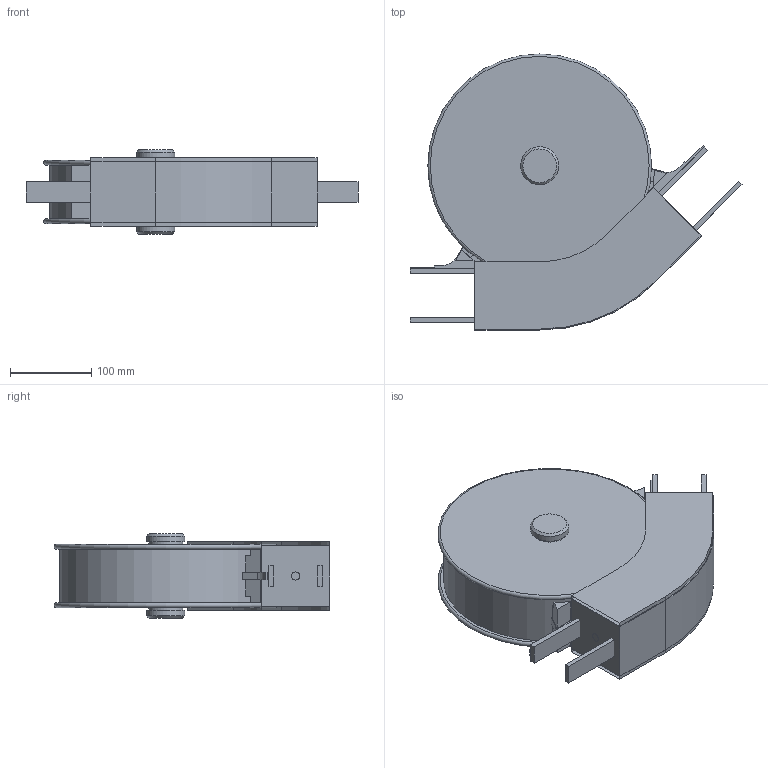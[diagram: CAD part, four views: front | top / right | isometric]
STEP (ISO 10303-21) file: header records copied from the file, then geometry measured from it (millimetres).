
FILE_DESCRIPTION(/* description */ ('Bogenrad 45°'),/* implementation_level */ '2;1');
FILE_NAME(/* name */ 'T:\vdz0\Step Daten Website\modulflex FM-System\Bogenräder\FMBH 45R160 A_43829.stp',/* time_stamp */ '2024-09-03T10:16:02+02:00',/* author */ ('lzb0'),/* organization */ ('modular automation GmbH'),/* preprocessor_version */ 'ST-DEVELOPER v18.1',/* originating_system */ 'Autodesk Inventor 2021',/* authorisation */ '');
FILE_SCHEMA (('AUTOMOTIVE_DESIGN { 1 0 10303 214 3 1 1 }'));
Length unit declared in the file: millimetre
Products named in the file (1): FMBH 45R160 A
Bounding box: 409.61 x 340.5 x 104 mm (x, y, z)
Volume: 6273486.9 mm3; surface area: 459113.2 mm2
Topology: 8 solids, 12 shells, 123 faces, 289 edges, 192 vertices
Faces by surface type: plane 104, cylinder 15, cone 2, torus 2
Full cylindrical faces by diameter (mm): 10 x2, 42 x2, 47 x2, 262 x1
Entity records: 3581 total; most frequent: CARTESIAN_POINT 612, DIRECTION 577, ORIENTED_EDGE 558, EDGE_CURVE 289, LINE 251, VECTOR 251, VERTEX_POINT 192, AXIS2_PLACEMENT_3D 163
